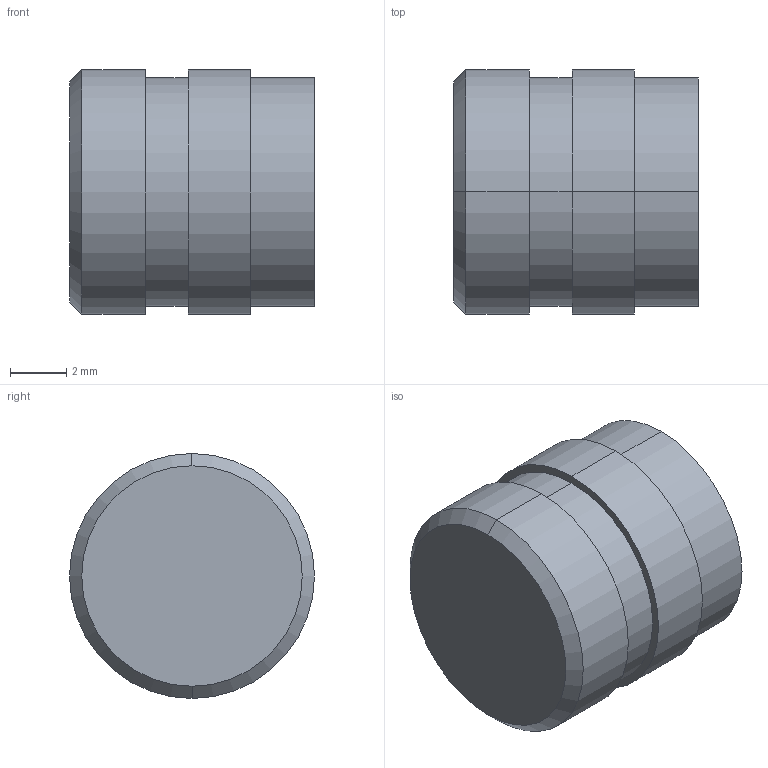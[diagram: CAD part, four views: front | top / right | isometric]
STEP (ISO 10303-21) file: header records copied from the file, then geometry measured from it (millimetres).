
FILE_DESCRIPTION(('starvars output'),'2;1');
FILE_NAME('cv20190722134301000028423.stp','13:43:01 2019/07/22',( 'Thomas Industrial Network Germany GmbH'),( 'Thomas Industrial Network Germany GmbH'),'unknown preprocess','ACIS' ,'unknown authorization');
FILE_SCHEMA(('AUTOMOTIVE_DESIGN_CC2 {UNKNOWN IMPLEMENTATION LEVEL}'));
Length unit declared in the file: millimetre
Products named in the file (1): PRODUCT_ID_2
Bounding box: 8.74 x 8.74 x 8.74 mm (x, y, z)
Volume: 341.1 mm3; surface area: 470.1 mm2
Topology: 1 solids, 1 shells, 24 faces, 48 edges, 29 vertices
Faces by surface type: cylinder 12, plane 6, cone 6
Entity records: 778 total; most frequent: ORIENTED_EDGE 92, CARTESIAN_POINT 76, DIRECTION 76, EDGE_CURVE 46, VERTEX_POINT 29, AXIS2_PLACEMENT_3D 29, EDGE_LOOP 29, FACE_BOUND 29
